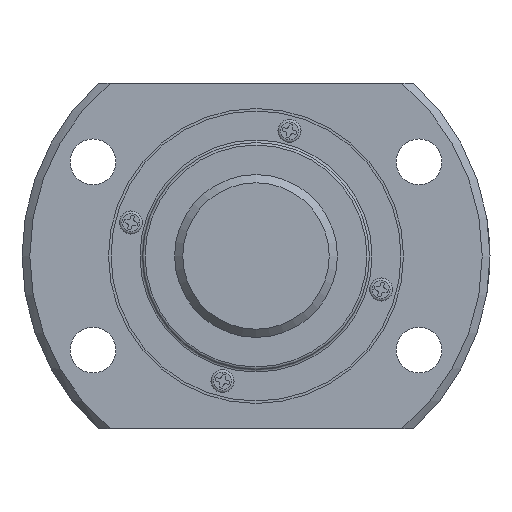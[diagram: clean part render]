
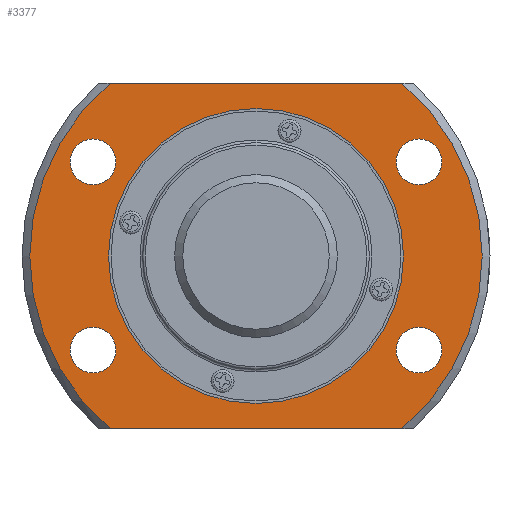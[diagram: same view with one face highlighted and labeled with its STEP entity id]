
A CAD part, left-side view. The second image highlights one B-rep face of the part: STEP entity #3377.
In plain terms, the highlighted planar face has unit normal (-1, 0, 0).
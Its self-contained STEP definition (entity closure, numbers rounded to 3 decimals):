
#37=LINE('',#5080,#365);
#38=LINE('',#5081,#366);
#365=VECTOR('',#4023,1000.);
#366=VECTOR('',#4024,1000.);
#721=PLANE('',#3628);
#887=ORIENTED_EDGE('',*,*,#1823,.T.);
#888=ORIENTED_EDGE('',*,*,#1824,.T.);
#889=ORIENTED_EDGE('',*,*,#1825,.T.);
#890=ORIENTED_EDGE('',*,*,#1826,.T.);
#891=ORIENTED_EDGE('',*,*,#1827,.T.);
#892=ORIENTED_EDGE('',*,*,#1818,.F.);
#893=ORIENTED_EDGE('',*,*,#1828,.T.);
#894=ORIENTED_EDGE('',*,*,#1821,.F.);
#895=ORIENTED_EDGE('',*,*,#1829,.T.);
#1818=EDGE_CURVE('',#2286,#2287,#2617,.T.);
#1821=EDGE_CURVE('',#2288,#2289,#2618,.T.);
#1823=EDGE_CURVE('',#2290,#2290,#2619,.T.);
#1824=EDGE_CURVE('',#2291,#2291,#2620,.T.);
#1825=EDGE_CURVE('',#2292,#2292,#2621,.T.);
#1826=EDGE_CURVE('',#2293,#2293,#2622,.T.);
#1827=EDGE_CURVE('',#2294,#2294,#2623,.T.);
#1828=EDGE_CURVE('',#2286,#2289,#37,.T.);
#1829=EDGE_CURVE('',#2288,#2287,#38,.T.);
#2286=VERTEX_POINT('',#5050);
#2287=VERTEX_POINT('',#5052);
#2288=VERTEX_POINT('',#5062);
#2289=VERTEX_POINT('',#5064);
#2290=VERTEX_POINT('',#5071);
#2291=VERTEX_POINT('',#5073);
#2292=VERTEX_POINT('',#5075);
#2293=VERTEX_POINT('',#5077);
#2294=VERTEX_POINT('',#5079);
#2617=CIRCLE('',#3625,44.467);
#2618=CIRCLE('',#3627,44.467);
#2619=CIRCLE('',#3629,29.);
#2620=CIRCLE('',#3630,4.5);
#2621=CIRCLE('',#3631,4.5);
#2622=CIRCLE('',#3632,4.5);
#2623=CIRCLE('',#3633,4.5);
#2759=EDGE_LOOP('',(#887));
#2760=EDGE_LOOP('',(#888));
#2761=EDGE_LOOP('',(#889));
#2762=EDGE_LOOP('',(#890));
#2763=EDGE_LOOP('',(#891));
#2764=EDGE_LOOP('',(#892,#893,#894,#895));
#3043=FACE_BOUND('',#2759,.T.);
#3044=FACE_BOUND('',#2760,.T.);
#3045=FACE_BOUND('',#2761,.T.);
#3046=FACE_BOUND('',#2762,.T.);
#3047=FACE_BOUND('',#2763,.T.);
#3048=FACE_BOUND('',#2764,.T.);
#3377=ADVANCED_FACE('',(#3043,#3044,#3045,#3046,#3047,#3048),#721,.T.);
#3625=AXIS2_PLACEMENT_3D('',#5051,#4005,#4006);
#3627=AXIS2_PLACEMENT_3D('',#5063,#4009,#4010);
#3628=AXIS2_PLACEMENT_3D('',#5069,#4011,#4012);
#3629=AXIS2_PLACEMENT_3D('',#5070,#4013,#4014);
#3630=AXIS2_PLACEMENT_3D('',#5072,#4015,#4016);
#3631=AXIS2_PLACEMENT_3D('',#5074,#4017,#4018);
#3632=AXIS2_PLACEMENT_3D('',#5076,#4019,#4020);
#3633=AXIS2_PLACEMENT_3D('',#5078,#4021,#4022);
#4005=DIRECTION('',(1.,0.,0.));
#4006=DIRECTION('',(0.,0.,-1.));
#4009=DIRECTION('',(1.,0.,0.));
#4010=DIRECTION('',(0.,0.,-1.));
#4011=DIRECTION('',(-1.,0.,0.));
#4012=DIRECTION('',(0.,0.,1.));
#4013=DIRECTION('',(1.,0.,0.));
#4014=DIRECTION('',(0.,0.,-1.));
#4015=DIRECTION('',(1.,0.,0.));
#4016=DIRECTION('',(0.,0.,-1.));
#4017=DIRECTION('',(1.,0.,0.));
#4018=DIRECTION('',(0.,0.,-1.));
#4019=DIRECTION('',(1.,0.,0.));
#4020=DIRECTION('',(0.,0.,-1.));
#4021=DIRECTION('',(1.,0.,0.));
#4022=DIRECTION('',(0.,0.,-1.));
#4023=DIRECTION('',(0.,1.,0.));
#4024=DIRECTION('',(0.,-1.,0.));
#5050=CARTESIAN_POINT('',(10.,-28.658,34.));
#5051=CARTESIAN_POINT('',(10.,0.,0.));
#5052=CARTESIAN_POINT('',(10.,-28.658,-34.));
#5062=CARTESIAN_POINT('',(10.,28.658,-34.));
#5063=CARTESIAN_POINT('',(10.,0.,0.));
#5064=CARTESIAN_POINT('',(10.,28.658,34.));
#5069=CARTESIAN_POINT('',(10.,44.467,0.));
#5070=CARTESIAN_POINT('',(10.,0.,0.));
#5071=CARTESIAN_POINT('',(10.,0.,-29.));
#5072=CARTESIAN_POINT('',(10.,-32.043,18.5));
#5073=CARTESIAN_POINT('',(10.,-32.043,14.));
#5074=CARTESIAN_POINT('',(10.,32.043,-18.5));
#5075=CARTESIAN_POINT('',(10.,32.043,-23.));
#5076=CARTESIAN_POINT('',(10.,-32.043,-18.5));
#5077=CARTESIAN_POINT('',(10.,-32.043,-23.));
#5078=CARTESIAN_POINT('',(10.,32.043,18.5));
#5079=CARTESIAN_POINT('',(10.,32.043,14.));
#5080=CARTESIAN_POINT('',(10.,44.467,34.));
#5081=CARTESIAN_POINT('',(10.,44.467,-34.));
